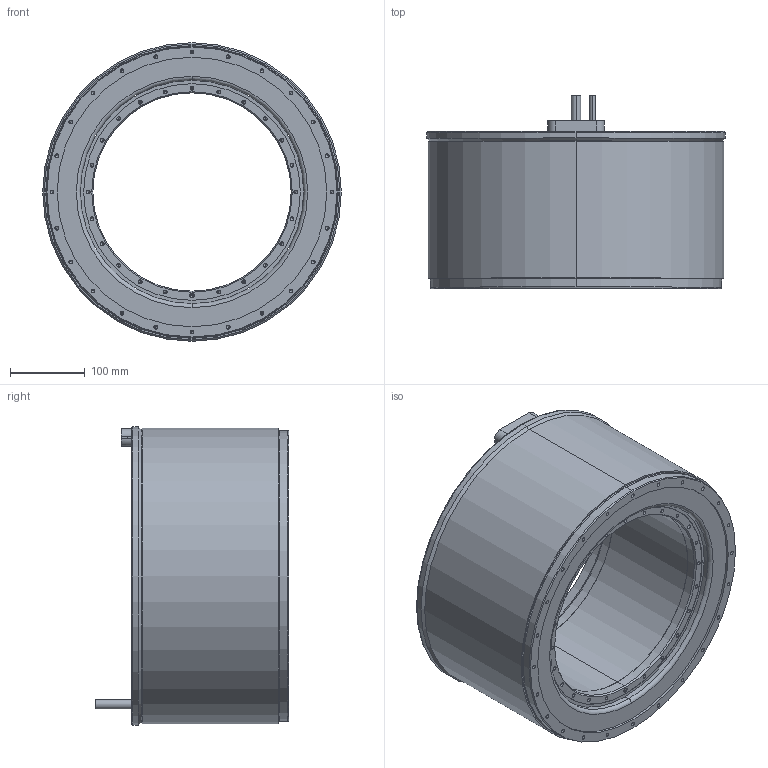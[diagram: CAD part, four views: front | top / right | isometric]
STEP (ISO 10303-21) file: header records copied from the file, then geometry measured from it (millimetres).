
FILE_DESCRIPTION (( 'STEP AP203' ), '1' );
FILE_NAME ('TM-2-AH-PC0(J0).STEP', '2023-06-06T02:05:25', ( '' ), ( '' ), 'SwSTEP 2.0', 'SolidWorks 2015', '' );
FILE_SCHEMA (( 'CONFIG_CONTROL_DESIGN' ));
Length unit declared in the file: millimetre
Products named in the file (3): TM-2-AH(J0)_Rotor; TM-2-AH-PC0(J0); TM-2-AH-PC0(J0)_Stator
Assembly tree (2 placements, depth 2):
  TM-2-AH-PC0(J0)
    TM-2-AH-PC0(J0)_Stator
    TM-2-AH(J0)_Rotor
Bounding box: 399 x 259 x 399 mm (x, y, z)
Volume: 13298467.6 mm3; surface area: 928734.6 mm2
Topology: 2 solids, 2 shells, 523 faces, 1266 edges, 670 vertices
Faces by surface type: cylinder 248, cone 216, plane 51, torus 8
Entity records: 14111 total; most frequent: DIRECTION 2660, CARTESIAN_POINT 2268, ORIENTED_EDGE 2140, EDGE_CURVE 1070, AXIS2_PLACEMENT_3D 1062, VERTEX_POINT 670, EDGE_LOOP 646, LINE 536
